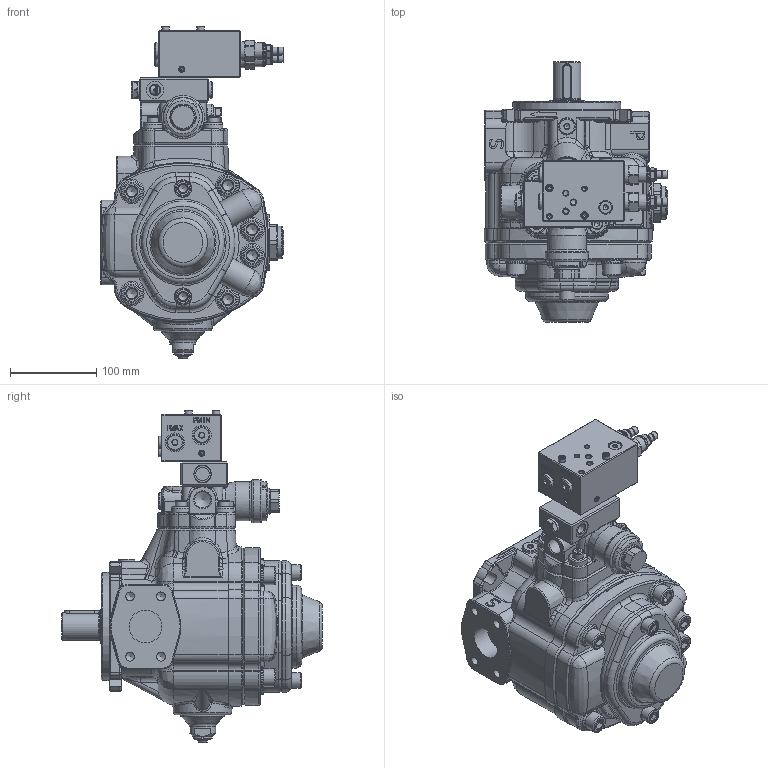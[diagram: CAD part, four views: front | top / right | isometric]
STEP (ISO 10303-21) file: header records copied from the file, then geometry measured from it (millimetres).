
FILE_DESCRIPTION(/* description */ (''),/* implementation_level */ '2;1');
FILE_NAME(/* name */ 'W:\Tecnico\Archivio\Berarma\Dimensioni Pompe\3D Export\Montaggio 3D semplificato\PLP-PHP 2\PHP 2 - A PCLS004.stp',/* time_stamp */ '2018-10-09T16:40:27+02:00',/* author */ ('marcop'),/* organization */ (''),/* preprocessor_version */ 'ST-DEVELOPER v17',/* originating_system */ 'Autodesk Inventor 2018',/* authorisation */ '');
FILE_SCHEMA (('AUTOMOTIVE_DESIGN { 1 0 10303 214 3 1 1 }'));
Products named in the file (1): PLP - PHP 2_Shrinkwrap_1
Bounding box: 212.33 x 301.5 x 384.1 mm (x, y, z)
Volume: 5345305.1 mm3; surface area: 486091.5 mm2
Topology: 1 solids, 1 shells, 2733 faces, 7087 edges, 4464 vertices
Faces by surface type: plane 1090, cylinder 632, bspline 439, cone 298, torus 240, sphere 34
Full cylindrical faces by diameter (mm): 0.9 x6, 1.7 x4, 2.5 x3, 3 x1, 4 x5, 4.134 x2, 5 x7, 5.5 x5, 6 x3, 6.5 x8, 7.2 x13, 7.671 x4, 8 x3, 8.376 x4, 8.5 x2, 8.566 x4, 9.347 x4, 9.5 x2, 10 x1, 10.106 x4, 11.445 x5, 12 x5, 13 x4, 13.487 x2, 13.5 x2, 13.767 x4, 14 x4, 14.224 x2, 14.63 x2, 15.5 x2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
Entity records: 102518 total; most frequent: CARTESIAN_POINT 35436, ORIENTED_EDGE 14028, DIRECTION 12847, EDGE_CURVE 7014, AXIS2_PLACEMENT_3D 5012, VERTEX_POINT 4464, EDGE_LOOP 3004, LINE 2823
